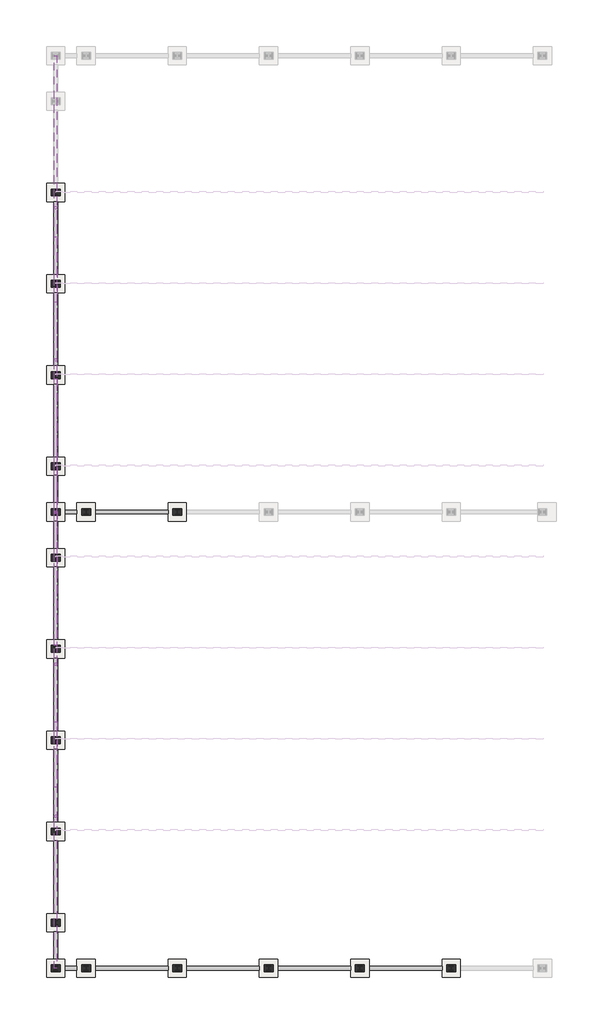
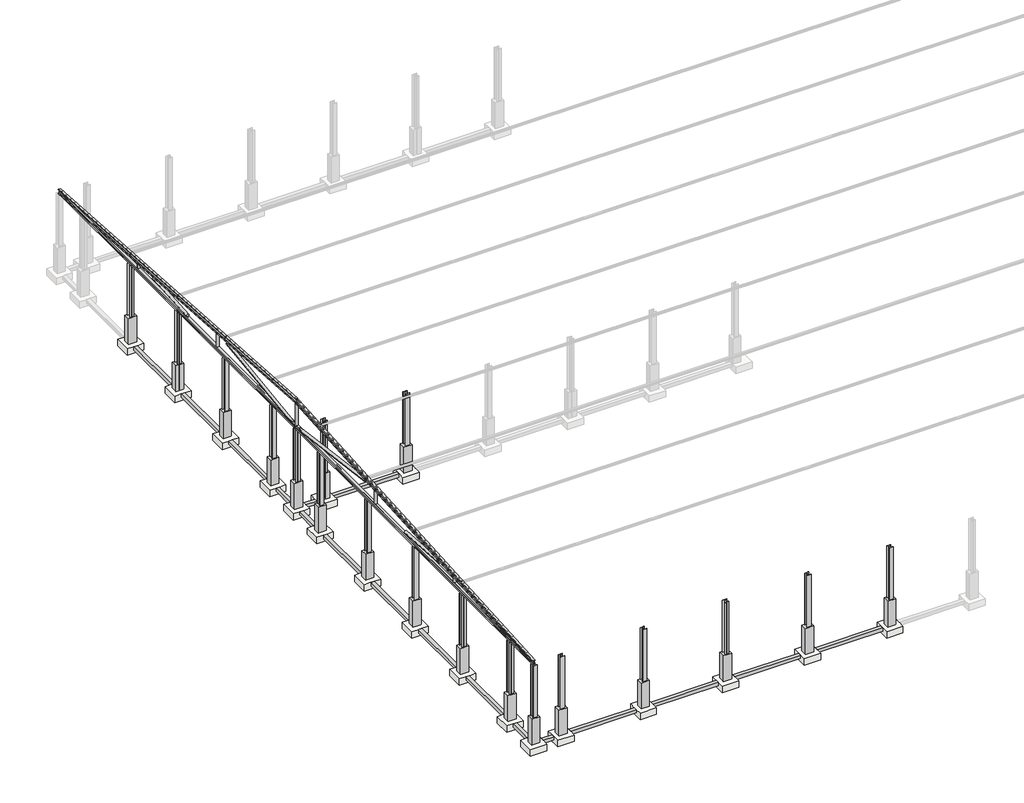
# One storey, part 1 of 4: 36 columns, 29 beams, 18 slabs.
"""IFC4 building model written with IfcOpenShell, lengths in millimetres."""

from ifc_helpers import new_model, si_unit, frame, origin, place, context, project, spatial, polyline, outline, extrude, faceted_brep, transform, mapped, element, save
from components import round_bar_ef4423fe, round_bar_4b02da19, round_bar_197e2d5d, round_bar_92be63b7, round_bar_eebc96e0, round_bar_8cfec21f, round_bar_b8de9798, ub_universal_beams_ub305x165x40_7b27b8ec, ub_universal_beams_ub305x165x40_b91aa233, ub_universal_beams_ub305x165x40_f28fc4b8, columns_rectangular_450x600mm_2512dfd8, uc_universal_columns_column_uc305x305x97_76abc542

model = new_model("IFC4")

# Units and contexts
model_context = context("Model", 3, world=origin())
ifc_project = project(units=[si_unit("LENGTHUNIT", "METRE", prefix="MILLI")], contexts=[model_context])

# Site, building, storey
site = spatial("IfcSite", under=ifc_project)
building = spatial("IfcBuilding", under=site)
storey = spatial("IfcBuildingStorey", under=building, Name="Kota 0", Elevation=0.0)

# Beams
placement = place(None, origin())
element("IfcBeam", 1, ObjectType="Concrete-Rectangular Beam : 16 x 32", at=placement, inside=storey, context=model_context, shape_type="SweptSolid", body=[
    extrude(outline(polyline([(-7536.3249405, -52841.8171651), (-7536.3249405, -53091.8171651), (-8336.3249405, -53091.8171651), (-8336.3249405, -52841.8171651), (-7536.3249405, -52841.8171651)])), frame((0.0, 0.0, -250.0), z_axis=(0.0, 0.0, 1.0), x_axis=(1.0, 0.0, 0.0)), (0.0, 0.0, 1.0), 250.0),
])
element("IfcBeam", 2, ObjectType="Concrete-Rectangular Beam : 16 x 32", at=placement, inside=storey, context=model_context, shape_type="SweptSolid", body=[
    extrude(outline(polyline([(-1536.3249405, -52841.8171651), (-1536.3249405, -53091.8171651), (-6336.3249405, -53091.8171651), (-6336.3249405, -52841.8171651), (-1536.3249405, -52841.8171651)])), frame((0.0, 0.0, -250.0), z_axis=(0.0, 0.0, 1.0), x_axis=(1.0, 0.0, 0.0)), (0.0, 0.0, 1.0), 250.0),
])
element("IfcBeam", 3, ObjectType="Concrete-Rectangular Beam : 16 x 32", at=placement, inside=storey, context=model_context, shape_type="SweptSolid", body=[
    extrude(outline(polyline([(4463.6750595, -52841.8171651), (4463.6750595, -53091.8171651), (-336.3249405, -53091.8171651), (-336.3249405, -52841.8171651), (4463.6750595, -52841.8171651)])), frame((0.0, 0.0, -250.0), z_axis=(0.0, 0.0, 1.0), x_axis=(1.0, 0.0, 0.0)), (0.0, 0.0, 1.0), 250.0),
])
element("IfcBeam", 4, ObjectType="Concrete-Rectangular Beam : 16 x 32", at=placement, inside=storey, context=model_context, shape_type="SweptSolid", body=[
    extrude(outline(polyline([(10463.6750595, -52841.8171651), (10463.6750595, -53091.8171651), (5663.6750595, -53091.8171651), (5663.6750595, -52841.8171651), (10463.6750595, -52841.8171651)])), frame((0.0, 0.0, -250.0), z_axis=(0.0, 0.0, 1.0), x_axis=(1.0, 0.0, 0.0)), (0.0, 0.0, 1.0), 250.0),
])
element("IfcBeam", 5, ObjectType="Concrete-Rectangular Beam : 16 x 32", at=placement, inside=storey, context=model_context, shape_type="SweptSolid", body=[
    extrude(outline(polyline([(16463.6750595, -52841.8171651), (16463.6750595, -53091.8171651), (11663.6750595, -53091.8171651), (11663.6750595, -52841.8171651), (16463.6750595, -52841.8171651)])), frame((0.0, 0.0, -250.0), z_axis=(0.0, 0.0, 1.0), x_axis=(1.0, 0.0, 0.0)), (0.0, 0.0, 1.0), 250.0),
])
element("IfcBeam", 6, ObjectType="Concrete-Rectangular Beam : 16 x 32", at=placement, inside=storey, context=model_context, shape_type="SweptSolid", body=[
    extrude(outline(polyline([(-8811.3249405, -7366.8171651), (-9061.3249405, -7366.8171651), (-9061.3249405, -2566.8171651), (-8811.3249405, -2566.8171651), (-8811.3249405, -7366.8171651)])), frame((0.0, 0.0, -250.0), z_axis=(0.0, 0.0, 1.0), x_axis=(1.0, 0.0, 0.0)), (0.0, 0.0, 1.0), 250.0),
])
element("IfcBeam", 7, ObjectType="Concrete-Rectangular Beam : 16 x 32", at=placement, inside=storey, context=model_context, shape_type="SweptSolid", body=[
    extrude(outline(polyline([(-8811.3249405, -13366.8171651), (-9061.3249405, -13366.8171651), (-9061.3249405, -8566.8171651), (-8811.3249405, -8566.8171651), (-8811.3249405, -13366.8171651)])), frame((0.0, 0.0, -250.0), z_axis=(0.0, 0.0, 1.0), x_axis=(1.0, 0.0, 0.0)), (0.0, 0.0, 1.0), 250.0),
])
element("IfcBeam", 8, ObjectType="Concrete-Rectangular Beam : 16 x 32", at=placement, inside=storey, context=model_context, shape_type="SweptSolid", body=[
    extrude(outline(polyline([(-8811.3249405, -19366.8171651), (-9061.3249405, -19366.8171651), (-9061.3249405, -14566.8171651), (-8811.3249405, -14566.8171651), (-8811.3249405, -19366.8171651)])), frame((0.0, 0.0, -250.0), z_axis=(0.0, 0.0, 1.0), x_axis=(1.0, 0.0, 0.0)), (0.0, 0.0, 1.0), 250.0),
])
element("IfcBeam", 9, ObjectType="Concrete-Rectangular Beam : 16 x 32", at=placement, inside=storey, context=model_context, shape_type="SweptSolid", body=[
    extrude(outline(polyline([(-8811.3249405, -22366.8171651), (-9061.3249405, -22366.8171651), (-9061.3249405, -20566.8171651), (-8811.3249405, -20566.8171651), (-8811.3249405, -22366.8171651)])), frame((0.0, 0.0, -250.0), z_axis=(0.0, 0.0, 1.0), x_axis=(1.0, 0.0, 0.0)), (0.0, 0.0, 1.0), 250.0),
])
element("IfcBeam", 10, ObjectType="Concrete-Rectangular Beam : 16 x 32", at=placement, inside=storey, context=model_context, shape_type="SweptSolid", body=[
    extrude(outline(polyline([(-8811.3249405, -25366.8171651), (-9061.3249405, -25366.8171651), (-9061.3249405, -23566.8171651), (-8811.3249405, -23566.8171651), (-8811.3249405, -25366.8171651)])), frame((0.0, 0.0, -250.0), z_axis=(0.0, 0.0, 1.0), x_axis=(1.0, 0.0, 0.0)), (0.0, 0.0, 1.0), 250.0),
])
element("IfcBeam", 11, ObjectType="Concrete-Rectangular Beam : 16 x 32", at=placement, inside=storey, context=model_context, shape_type="SweptSolid", body=[
    extrude(outline(polyline([(-8811.3249405, -31366.8171651), (-9061.3249405, -31366.8171651), (-9061.3249405, -26566.8171651), (-8811.3249405, -26566.8171651), (-8811.3249405, -31366.8171651)])), frame((0.0, 0.0, -250.0), z_axis=(0.0, 0.0, 1.0), x_axis=(1.0, 0.0, 0.0)), (0.0, 0.0, 1.0), 250.0),
])
element("IfcBeam", 12, ObjectType="Concrete-Rectangular Beam : 16 x 32", at=placement, inside=storey, context=model_context, shape_type="SweptSolid", body=[
    extrude(outline(polyline([(-8811.3249405, -37366.8171651), (-9061.3249405, -37366.8171651), (-9061.3249405, -32566.8171651), (-8811.3249405, -32566.8171651), (-8811.3249405, -37366.8171651)])), frame((0.0, 0.0, -250.0), z_axis=(0.0, 0.0, 1.0), x_axis=(1.0, 0.0, 0.0)), (0.0, 0.0, 1.0), 250.0),
])
element("IfcBeam", 13, ObjectType="Concrete-Rectangular Beam : 16 x 32", at=placement, inside=storey, context=model_context, shape_type="SweptSolid", body=[
    extrude(outline(polyline([(-8811.3249405, -43366.8171651), (-9061.3249405, -43366.8171651), (-9061.3249405, -38566.8171651), (-8811.3249405, -38566.8171651), (-8811.3249405, -43366.8171651)])), frame((0.0, 0.0, -250.0), z_axis=(0.0, 0.0, 1.0), x_axis=(1.0, 0.0, 0.0)), (0.0, 0.0, 1.0), 250.0),
])
element("IfcBeam", 14, ObjectType="Concrete-Rectangular Beam : 16 x 32", at=placement, inside=storey, context=model_context, shape_type="SweptSolid", body=[
    extrude(outline(polyline([(-8811.3249405, -49366.8171651), (-9061.3249405, -49366.8171651), (-9061.3249405, -44566.8171651), (-8811.3249405, -44566.8171651), (-8811.3249405, -49366.8171651)])), frame((0.0, 0.0, -250.0), z_axis=(0.0, 0.0, 1.0), x_axis=(1.0, 0.0, 0.0)), (0.0, 0.0, 1.0), 250.0),
])
element("IfcBeam", 15, ObjectType="Concrete-Rectangular Beam : 16 x 32", at=placement, inside=storey, context=model_context, shape_type="SweptSolid", body=[
    extrude(outline(polyline([(-8811.3249405, -52366.8171651), (-9061.3249405, -52366.8171651), (-9061.3249405, -50566.8171651), (-8811.3249405, -50566.8171651), (-8811.3249405, -52366.8171651)])), frame((0.0, 0.0, -250.0), z_axis=(0.0, 0.0, 1.0), x_axis=(1.0, 0.0, 0.0)), (0.0, 0.0, 1.0), 250.0),
])
element("IfcBeam", 16, ObjectType="Concrete-Rectangular Beam : 16 x 32", at=placement, inside=storey, context=model_context, shape_type="SweptSolid", body=[
    extrude(outline(polyline([(-8336.3249405, -23091.8171651), (-8336.3249405, -22841.8171651), (-7536.3249405, -22841.8171651), (-7536.3249405, -23091.8171651), (-8336.3249405, -23091.8171651)])), frame((0.0, 0.0, -250.0), z_axis=(0.0, 0.0, 1.0), x_axis=(1.0, 0.0, 0.0)), (0.0, 0.0, 1.0), 250.0),
])
element("IfcBeam", 17, ObjectType="Concrete-Rectangular Beam : 16 x 32", at=placement, inside=storey, context=model_context, shape_type="SweptSolid", body=[
    extrude(outline(polyline([(-6336.3249405, -23091.8171651), (-6336.3249405, -22841.8171651), (-1536.3249405, -22841.8171651), (-1536.3249405, -23091.8171651), (-6336.3249405, -23091.8171651)])), frame((0.0, 0.0, -250.0), z_axis=(0.0, 0.0, 1.0), x_axis=(1.0, 0.0, 0.0)), (0.0, 0.0, 1.0), 250.0),
])
round_bar_shape = round_bar_ef4423fe(model_context)
element("IfcBeam", 18, ObjectType="Round Bar : Ispuna resetke", at=placement, inside=storey, context=model_context, shape_type="MappedRepresentation", body=[
    mapped(round_bar_shape, transform((-8936.3249405, -22966.8171651, 7151.7), x_axis=(0.0, 0.0, 1.0), y_axis=(-1.0, 0.0, 0.0), z_axis=(0.0, -1.0, 0.0))),
])
round_bar_2_shape = round_bar_4b02da19(model_context)
element("IfcBeam", 19, ObjectType="Round Bar : Ispuna resetke", at=placement, inside=storey, context=model_context, shape_type="MappedRepresentation", body=[
    mapped(round_bar_2_shape, transform((-8936.3249405, -12966.8171651, 6818.3666667), x_axis=(0.0, 0.0, 1.0), y_axis=(-1.0, 0.0, 0.0), z_axis=(0.0, -1.0, 0.0))),
])
element("IfcBeam", 20, ObjectType="Round Bar : Ispuna resetke", at=placement, inside=storey, context=model_context, shape_type="MappedRepresentation", body=[
    mapped(round_bar_2_shape, transform((-8936.3249405, -32966.8171651, 6818.3666667), x_axis=(0.0, 0.0, 1.0), y_axis=(-1.0, 0.0, 0.0), z_axis=(0.0, -1.0, 0.0))),
])
round_bar_3_shape = round_bar_197e2d5d(model_context)
element("IfcBeam", 21, ObjectType="Round Bar : Ispuna resetke", at=placement, inside=storey, context=model_context, shape_type="MappedRepresentation", body=[
    mapped(round_bar_3_shape, transform((-8936.3249405, -2966.8171651, 6485.0333333), x_axis=(0.0, 0.0, 1.0), y_axis=(-1.0, 0.0, 0.0), z_axis=(0.0, -1.0, 0.0))),
])
element("IfcBeam", 22, ObjectType="Round Bar : Ispuna resetke", at=placement, inside=storey, context=model_context, shape_type="MappedRepresentation", body=[
    mapped(round_bar_3_shape, transform((-8936.3249405, -42966.8171651, 6485.0333333), x_axis=(0.0, 0.0, 1.0), y_axis=(-1.0, 0.0, 0.0), z_axis=(0.0, -1.0, 0.0))),
])
round_bar_4_shape = round_bar_92be63b7(model_context)
element("IfcBeam", 23, ObjectType="Round Bar : Ispuna resetke", at=placement, inside=storey, context=model_context, shape_type="MappedRepresentation", body=[
    mapped(round_bar_4_shape, transform((-8936.3249405, -17966.8171651, 6818.3666667), x_axis=(0.0, -0.9912279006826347, -0.13216372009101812), y_axis=(-1.0, 0.0, 0.0), z_axis=(0.0, 0.13216372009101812, -0.9912279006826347))),
])
round_bar_5_shape = round_bar_eebc96e0(model_context)
element("IfcBeam", 24, ObjectType="Round Bar : Ispuna resetke", at=placement, inside=storey, context=model_context, shape_type="MappedRepresentation", body=[
    mapped(round_bar_5_shape, transform((-8936.3249405, -7966.8171651, 6485.0333333), x_axis=(0.0, -0.9977851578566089, -0.06651901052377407), y_axis=(-1.0, 0.0, 0.0), z_axis=(0.0, 0.06651901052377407, -0.9977851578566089))),
])
round_bar_6_shape = round_bar_8cfec21f(model_context)
element("IfcBeam", 25, ObjectType="Round Bar : Ispuna resetke", at=placement, inside=storey, context=model_context, shape_type="MappedRepresentation", body=[
    mapped(round_bar_6_shape, transform((-8936.3249405, -27966.8171651, 6818.3666667), x_axis=(0.0, -0.9912279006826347, 0.13216372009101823), y_axis=(-1.0, 0.0, 0.0), z_axis=(0.0, -0.13216372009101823, -0.9912279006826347))),
])
round_bar_7_shape = round_bar_b8de9798(model_context)
element("IfcBeam", 26, ObjectType="Round Bar : Ispuna resetke", at=placement, inside=storey, context=model_context, shape_type="MappedRepresentation", body=[
    mapped(round_bar_7_shape, transform((-8936.3249405, -37966.8171651, 6485.0333333), x_axis=(0.0, -0.9977851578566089, 0.0665190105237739), y_axis=(-1.0, 0.0, 0.0), z_axis=(0.0, -0.0665190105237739, -0.9977851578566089))),
])
ub_universal_beams_ub305x165x40_shape = ub_universal_beams_ub305x165x40_7b27b8ec(model_context)
element("IfcBeam", 27, ObjectType="UB-Universal Beams : UB305x165x40", at=placement, inside=storey, context=model_context, shape_type="MappedRepresentation", body=[
    mapped(ub_universal_beams_ub305x165x40_shape, transform((-8936.3249405, -22966.8171651, 6151.7), x_axis=(0.0, -1.0, 0.0), y_axis=(1.0, 0.0, 0.0), z_axis=(0.0, 0.0, 1.0))),
])
ub_universal_beams_ub305x165x40_2_shape = ub_universal_beams_ub305x165x40_b91aa233(model_context)
element("IfcBeam", 28, ObjectType="UB-Universal Beams : UB305x165x40", at=placement, inside=storey, context=model_context, shape_type="MappedRepresentation", body=[
    mapped(ub_universal_beams_ub305x165x40_2_shape, transform((-8936.3249405, -7966.8171651, 7151.7), x_axis=(0.0, -0.9977851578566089, 0.06651901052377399), y_axis=(1.0, 0.0, 0.0), z_axis=(0.0, 0.06651901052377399, 0.9977851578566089))),
])
ub_universal_beams_ub305x165x40_3_shape = ub_universal_beams_ub305x165x40_f28fc4b8(model_context)
element("IfcBeam", 29, ObjectType="UB-Universal Beams : UB305x165x40", at=placement, inside=storey, context=model_context, shape_type="MappedRepresentation", body=[
    mapped(ub_universal_beams_ub305x165x40_3_shape, transform((-8936.3249405, -37966.8171651, 7151.7), x_axis=(0.0, -0.9977851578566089, -0.06651901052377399), y_axis=(1.0, 0.0, 0.0), z_axis=(0.0, -0.06651901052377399, 0.9977851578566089))),
])

# Columns
columns_rectangular_450x600mm_shape = columns_rectangular_450x600mm_2512dfd8(model_context)
element("IfcColumn", 30, ObjectType="Columns_Rectangular : 450x600mm", at=placement, inside=storey, context=model_context, shape_type="MappedRepresentation", body=[
    mapped(columns_rectangular_450x600mm_shape, transform((17063.6750595, -52966.8171651, 0.0), x_axis=(1.0, 0.0, 0.0), y_axis=(0.0, 1.0, 0.0), z_axis=(0.0, 0.0, 1.0))),
])
element("IfcColumn", 31, ObjectType="Columns_Rectangular : 450x600mm", at=placement, inside=storey, context=model_context, shape_type="MappedRepresentation", body=[
    mapped(columns_rectangular_450x600mm_shape, transform((11063.6750595, -52966.8171651, 0.0), x_axis=(1.0, 0.0, 0.0), y_axis=(0.0, 1.0, 0.0), z_axis=(0.0, 0.0, 1.0))),
])
element("IfcColumn", 32, ObjectType="Columns_Rectangular : 450x600mm", at=placement, inside=storey, context=model_context, shape_type="MappedRepresentation", body=[
    mapped(columns_rectangular_450x600mm_shape, transform((5063.6750595, -52966.8171651, 0.0), x_axis=(1.0, 0.0, 0.0), y_axis=(0.0, 1.0, 0.0), z_axis=(0.0, 0.0, 1.0))),
])
element("IfcColumn", 33, ObjectType="Columns_Rectangular : 450x600mm", at=placement, inside=storey, context=model_context, shape_type="MappedRepresentation", body=[
    mapped(columns_rectangular_450x600mm_shape, transform((-936.3249405, -52966.8171651, 0.0), x_axis=(1.0, 0.0, 0.0), y_axis=(0.0, 1.0, 0.0), z_axis=(0.0, 0.0, 1.0))),
])
element("IfcColumn", 34, ObjectType="Columns_Rectangular : 450x600mm", at=placement, inside=storey, context=model_context, shape_type="MappedRepresentation", body=[
    mapped(columns_rectangular_450x600mm_shape, transform((-6936.3249405, -52966.8171651, 0.0), x_axis=(1.0, 0.0, 0.0), y_axis=(0.0, 1.0, 0.0), z_axis=(0.0, 0.0, 1.0))),
])
element("IfcColumn", 35, ObjectType="Columns_Rectangular : 450x600mm", at=placement, inside=storey, context=model_context, shape_type="MappedRepresentation", body=[
    mapped(columns_rectangular_450x600mm_shape, transform((-8936.3249405, -52966.8171651, 0.0), x_axis=(1.0, 0.0, 0.0), y_axis=(0.0, 1.0, 0.0), z_axis=(0.0, 0.0, 1.0))),
])
element("IfcColumn", 36, ObjectType="Columns_Rectangular : 450x600mm", at=placement, inside=storey, context=model_context, shape_type="MappedRepresentation", body=[
    mapped(columns_rectangular_450x600mm_shape, transform((-8936.3249405, -49966.8171651, 0.0), x_axis=(1.0, 0.0, 0.0), y_axis=(0.0, 1.0, 0.0), z_axis=(0.0, 0.0, 1.0))),
])
element("IfcColumn", 37, ObjectType="Columns_Rectangular : 450x600mm", at=placement, inside=storey, context=model_context, shape_type="MappedRepresentation", body=[
    mapped(columns_rectangular_450x600mm_shape, transform((-8936.3249405, -43966.8171651, 0.0), x_axis=(1.0, 0.0, 0.0), y_axis=(0.0, 1.0, 0.0), z_axis=(0.0, 0.0, 1.0))),
])
element("IfcColumn", 38, ObjectType="Columns_Rectangular : 450x600mm", at=placement, inside=storey, context=model_context, shape_type="MappedRepresentation", body=[
    mapped(columns_rectangular_450x600mm_shape, transform((-8936.3249405, -37966.8171651, 0.0), x_axis=(1.0, 0.0, 0.0), y_axis=(0.0, 1.0, 0.0), z_axis=(0.0, 0.0, 1.0))),
])
element("IfcColumn", 39, ObjectType="Columns_Rectangular : 450x600mm", at=placement, inside=storey, context=model_context, shape_type="MappedRepresentation", body=[
    mapped(columns_rectangular_450x600mm_shape, transform((-8936.3249405, -31966.8171651, 0.0), x_axis=(1.0, 0.0, 0.0), y_axis=(0.0, 1.0, 0.0), z_axis=(0.0, 0.0, 1.0))),
])
element("IfcColumn", 40, ObjectType="Columns_Rectangular : 450x600mm", at=placement, inside=storey, context=model_context, shape_type="MappedRepresentation", body=[
    mapped(columns_rectangular_450x600mm_shape, transform((-8936.3249405, -25966.8171651, 0.0), x_axis=(1.0, 0.0, 0.0), y_axis=(0.0, 1.0, 0.0), z_axis=(0.0, 0.0, 1.0))),
])
element("IfcColumn", 41, ObjectType="Columns_Rectangular : 450x600mm", at=placement, inside=storey, context=model_context, shape_type="MappedRepresentation", body=[
    mapped(columns_rectangular_450x600mm_shape, transform((-8936.3249405, -19966.8171651, 0.0), x_axis=(1.0, 0.0, 0.0), y_axis=(0.0, 1.0, 0.0), z_axis=(0.0, 0.0, 1.0))),
])
element("IfcColumn", 42, ObjectType="Columns_Rectangular : 450x600mm", at=placement, inside=storey, context=model_context, shape_type="MappedRepresentation", body=[
    mapped(columns_rectangular_450x600mm_shape, transform((-8936.3249405, -22966.8171651, 0.0), x_axis=(1.0, 0.0, 0.0), y_axis=(0.0, 1.0, 0.0), z_axis=(0.0, 0.0, 1.0))),
])
element("IfcColumn", 43, ObjectType="Columns_Rectangular : 450x600mm", at=placement, inside=storey, context=model_context, shape_type="MappedRepresentation", body=[
    mapped(columns_rectangular_450x600mm_shape, transform((-8936.3249405, -13966.8171651, 0.0), x_axis=(1.0, 0.0, 0.0), y_axis=(0.0, 1.0, 0.0), z_axis=(0.0, 0.0, 1.0))),
])
element("IfcColumn", 44, ObjectType="Columns_Rectangular : 450x600mm", at=placement, inside=storey, context=model_context, shape_type="MappedRepresentation", body=[
    mapped(columns_rectangular_450x600mm_shape, transform((-8936.3249405, -7966.8171651, 0.0), x_axis=(1.0, 0.0, 0.0), y_axis=(0.0, 1.0, 0.0), z_axis=(0.0, 0.0, 1.0))),
])
element("IfcColumn", 45, ObjectType="Columns_Rectangular : 450x600mm", at=placement, inside=storey, context=model_context, shape_type="MappedRepresentation", body=[
    mapped(columns_rectangular_450x600mm_shape, transform((-8936.3249405, -1966.8171651, 0.0), x_axis=(1.0, 0.0, 0.0), y_axis=(0.0, 1.0, 0.0), z_axis=(0.0, 0.0, 1.0))),
])
element("IfcColumn", 46, ObjectType="Columns_Rectangular : 450x600mm", at=placement, inside=storey, context=model_context, shape_type="MappedRepresentation", body=[
    mapped(columns_rectangular_450x600mm_shape, transform((-6936.3249405, -22966.8171651, 0.0), x_axis=(1.0, 0.0, 0.0), y_axis=(0.0, 1.0, 0.0), z_axis=(0.0, 0.0, 1.0))),
])
element("IfcColumn", 47, ObjectType="Columns_Rectangular : 450x600mm", at=placement, inside=storey, context=model_context, shape_type="MappedRepresentation", body=[
    mapped(columns_rectangular_450x600mm_shape, transform((-936.3249405, -22966.8171651, 0.0), x_axis=(1.0, 0.0, 0.0), y_axis=(0.0, 1.0, 0.0), z_axis=(0.0, 0.0, 1.0))),
])
uc_universal_columns_column_uc305x305x97_shape = uc_universal_columns_column_uc305x305x97_76abc542(model_context)
element("IfcColumn", 48, ObjectType="UC-Universal Columns-Column : UC305x305x97", at=placement, inside=storey, context=model_context, shape_type="MappedRepresentation", body=[
    mapped(uc_universal_columns_column_uc305x305x97_shape, transform((-6936.3249405, -52966.8171651, 0.0), x_axis=(1.0, 0.0, 0.0), y_axis=(0.0, 1.0, 0.0), z_axis=(0.0, 0.0, 1.0))),
])
element("IfcColumn", 49, ObjectType="UC-Universal Columns-Column : UC305x305x97", at=placement, inside=storey, context=model_context, shape_type="MappedRepresentation", body=[
    mapped(uc_universal_columns_column_uc305x305x97_shape, transform((-936.3249405, -52966.8171651, 0.0), x_axis=(1.0, 0.0, 0.0), y_axis=(0.0, 1.0, 0.0), z_axis=(0.0, 0.0, 1.0))),
])
element("IfcColumn", 50, ObjectType="UC-Universal Columns-Column : UC305x305x97", at=placement, inside=storey, context=model_context, shape_type="MappedRepresentation", body=[
    mapped(uc_universal_columns_column_uc305x305x97_shape, transform((5063.6750595, -52966.8171651, 0.0), x_axis=(1.0, 0.0, 0.0), y_axis=(0.0, 1.0, 0.0), z_axis=(0.0, 0.0, 1.0))),
])
element("IfcColumn", 51, ObjectType="UC-Universal Columns-Column : UC305x305x97", at=placement, inside=storey, context=model_context, shape_type="MappedRepresentation", body=[
    mapped(uc_universal_columns_column_uc305x305x97_shape, transform((11063.6750595, -52966.8171651, 0.0), x_axis=(1.0, 0.0, 0.0), y_axis=(0.0, 1.0, 0.0), z_axis=(0.0, 0.0, 1.0))),
])
element("IfcColumn", 52, ObjectType="UC-Universal Columns-Column : UC305x305x97", at=placement, inside=storey, context=model_context, shape_type="MappedRepresentation", body=[
    mapped(uc_universal_columns_column_uc305x305x97_shape, transform((17063.6750595, -52966.8171651, 0.0), x_axis=(1.0, 0.0, 0.0), y_axis=(0.0, 1.0, 0.0), z_axis=(0.0, 0.0, 1.0))),
])
element("IfcColumn", 53, ObjectType="UC-Universal Columns-Column : UC305x305x97", at=placement, inside=storey, context=model_context, shape_type="MappedRepresentation", body=[
    mapped(uc_universal_columns_column_uc305x305x97_shape, transform((-8936.3249405, -52966.8171651, 0.0), x_axis=(1.0, 0.0, 0.0), y_axis=(0.0, 1.0, 0.0), z_axis=(0.0, 0.0, 1.0))),
])
element("IfcColumn", 54, ObjectType="UC-Universal Columns-Column : UC305x305x97", at=placement, inside=storey, context=model_context, shape_type="MappedRepresentation", body=[
    mapped(uc_universal_columns_column_uc305x305x97_shape, transform((-8936.3249405, -1966.8171651, 0.0), x_axis=(1.0, 0.0, 0.0), y_axis=(0.0, 1.0, 0.0), z_axis=(0.0, 0.0, 1.0))),
])
element("IfcColumn", 55, ObjectType="UC-Universal Columns-Column : UC305x305x97", at=placement, inside=storey, context=model_context, shape_type="MappedRepresentation", body=[
    mapped(uc_universal_columns_column_uc305x305x97_shape, transform((-8936.3249405, -7966.8171651, 0.0), x_axis=(1.0, 0.0, 0.0), y_axis=(0.0, 1.0, 0.0), z_axis=(0.0, 0.0, 1.0))),
])
element("IfcColumn", 56, ObjectType="UC-Universal Columns-Column : UC305x305x97", at=placement, inside=storey, context=model_context, shape_type="MappedRepresentation", body=[
    mapped(uc_universal_columns_column_uc305x305x97_shape, transform((-8936.3249405, -13966.8171651, 0.0), x_axis=(1.0, 0.0, 0.0), y_axis=(0.0, 1.0, 0.0), z_axis=(0.0, 0.0, 1.0))),
])
element("IfcColumn", 57, ObjectType="UC-Universal Columns-Column : UC305x305x97", at=placement, inside=storey, context=model_context, shape_type="MappedRepresentation", body=[
    mapped(uc_universal_columns_column_uc305x305x97_shape, transform((-8936.3249405, -19966.8171651, 0.0), x_axis=(1.0, 0.0, 0.0), y_axis=(0.0, 1.0, 0.0), z_axis=(0.0, 0.0, 1.0))),
])
element("IfcColumn", 58, ObjectType="UC-Universal Columns-Column : UC305x305x97", at=placement, inside=storey, context=model_context, shape_type="MappedRepresentation", body=[
    mapped(uc_universal_columns_column_uc305x305x97_shape, transform((-8936.3249405, -25966.8171651, 0.0), x_axis=(1.0, 0.0, 0.0), y_axis=(0.0, 1.0, 0.0), z_axis=(0.0, 0.0, 1.0))),
])
element("IfcColumn", 59, ObjectType="UC-Universal Columns-Column : UC305x305x97", at=placement, inside=storey, context=model_context, shape_type="MappedRepresentation", body=[
    mapped(uc_universal_columns_column_uc305x305x97_shape, transform((-8936.3249405, -31966.8171651, 0.0), x_axis=(1.0, 0.0, 0.0), y_axis=(0.0, 1.0, 0.0), z_axis=(0.0, 0.0, 1.0))),
])
element("IfcColumn", 60, ObjectType="UC-Universal Columns-Column : UC305x305x97", at=placement, inside=storey, context=model_context, shape_type="MappedRepresentation", body=[
    mapped(uc_universal_columns_column_uc305x305x97_shape, transform((-8936.3249405, -37966.8171651, 0.0), x_axis=(1.0, 0.0, 0.0), y_axis=(0.0, 1.0, 0.0), z_axis=(0.0, 0.0, 1.0))),
])
element("IfcColumn", 61, ObjectType="UC-Universal Columns-Column : UC305x305x97", at=placement, inside=storey, context=model_context, shape_type="MappedRepresentation", body=[
    mapped(uc_universal_columns_column_uc305x305x97_shape, transform((-8936.3249405, -43966.8171651, 0.0), x_axis=(1.0, 0.0, 0.0), y_axis=(0.0, 1.0, 0.0), z_axis=(0.0, 0.0, 1.0))),
])
element("IfcColumn", 62, ObjectType="UC-Universal Columns-Column : UC305x305x97", at=placement, inside=storey, context=model_context, shape_type="MappedRepresentation", body=[
    mapped(uc_universal_columns_column_uc305x305x97_shape, transform((-8936.3249405, -49966.8171651, 0.0), x_axis=(1.0, 0.0, 0.0), y_axis=(0.0, 1.0, 0.0), z_axis=(0.0, 0.0, 1.0))),
])
element("IfcColumn", 63, ObjectType="UC-Universal Columns-Column : UC305x305x97", at=placement, inside=storey, context=model_context, shape_type="MappedRepresentation", body=[
    mapped(uc_universal_columns_column_uc305x305x97_shape, transform((-6936.3249405, -22966.8171651, 0.0), x_axis=(-1.0, 0.0, 0.0), y_axis=(0.0, -1.0, 0.0), z_axis=(0.0, 0.0, 1.0))),
])
element("IfcColumn", 64, ObjectType="UC-Universal Columns-Column : UC305x305x97", at=placement, inside=storey, context=model_context, shape_type="MappedRepresentation", body=[
    mapped(uc_universal_columns_column_uc305x305x97_shape, transform((-936.3249405, -22966.8171651, 0.0), x_axis=(-1.0, 0.0, 0.0), y_axis=(0.0, -1.0, 0.0), z_axis=(0.0, 0.0, 1.0))),
])
element("IfcColumn", 65, ObjectType="UC-Universal Columns-Column : UC305x305x97", at=placement, inside=storey, context=model_context, shape_type="MappedRepresentation", body=[
    mapped(uc_universal_columns_column_uc305x305x97_shape, transform((-8936.3249405, -22966.8171651, 0.0), x_axis=(-1.0, 0.0, 0.0), y_axis=(0.0, -1.0, 0.0), z_axis=(0.0, 0.0, 1.0))),
])

# Slabs
element("IfcSlab", 66, ObjectType="Footing-Rectangular.0001 : 72\" x 48\" x 18\"", at=placement, inside=storey, context=model_context, shape_type="Brep", body=[
    faceted_brep([(17663.6750595, -52366.8171651, 0.0), (16463.6750595, -52366.8171651, 0.0), (16463.6750595, -52841.8171651, 0.0), (16463.6750595, -53091.8171651, 0.0), (16463.6750595, -53566.8171651, 0.0), (17663.6750595, -53566.8171651, 0.0), (17663.6750595, -53091.8171651, 0.0), (17663.6750595, -52841.8171651, 0.0), (17663.6750595, -52366.8171651, -500.0), (17663.6750595, -53566.8171651, -500.0), (16463.6750595, -53566.8171651, -500.0), (16463.6750595, -52366.8171651, -500.0)], [[[0, 1, 2, 3, 4, 5, 6, 7]], [[8, 9, 10, 11]], [[1, 0, 8, 11]], [[4, 3, 2, 1, 11, 10]], [[5, 4, 10, 9]], [[0, 7, 6, 5, 9, 8]]]),
])
element("IfcSlab", 67, ObjectType="Footing-Rectangular.0001 : 72\" x 48\" x 18\"", at=placement, inside=storey, context=model_context, shape_type="Brep", body=[
    faceted_brep([(11663.6750595, -52366.8171651, 0.0), (10463.6750595, -52366.8171651, 0.0), (10463.6750595, -52841.8171651, 0.0), (10463.6750595, -53091.8171651, 0.0), (10463.6750595, -53566.8171651, 0.0), (11663.6750595, -53566.8171651, 0.0), (11663.6750595, -53091.8171651, 0.0), (11663.6750595, -52841.8171651, 0.0), (11663.6750595, -52366.8171651, -500.0), (11663.6750595, -53566.8171651, -500.0), (10463.6750595, -53566.8171651, -500.0), (10463.6750595, -52366.8171651, -500.0)], [[[0, 1, 2, 3, 4, 5, 6, 7]], [[8, 9, 10, 11]], [[1, 0, 8, 11]], [[4, 3, 2, 1, 11, 10]], [[5, 4, 10, 9]], [[0, 7, 6, 5, 9, 8]]]),
])
element("IfcSlab", 68, ObjectType="Footing-Rectangular.0001 : 72\" x 48\" x 18\"", at=placement, inside=storey, context=model_context, shape_type="Brep", body=[
    faceted_brep([(5663.6750595, -52366.8171651, 0.0), (4463.6750595, -52366.8171651, 0.0), (4463.6750595, -52841.8171651, 0.0), (4463.6750595, -53091.8171651, 0.0), (4463.6750595, -53566.8171651, 0.0), (5663.6750595, -53566.8171651, 0.0), (5663.6750595, -53091.8171651, 0.0), (5663.6750595, -52841.8171651, 0.0), (5663.6750595, -52366.8171651, -500.0), (5663.6750595, -53566.8171651, -500.0), (4463.6750595, -53566.8171651, -500.0), (4463.6750595, -52366.8171651, -500.0)], [[[0, 1, 2, 3, 4, 5, 6, 7]], [[8, 9, 10, 11]], [[1, 0, 8, 11]], [[4, 3, 2, 1, 11, 10]], [[5, 4, 10, 9]], [[0, 7, 6, 5, 9, 8]]]),
])
element("IfcSlab", 69, ObjectType="Footing-Rectangular.0001 : 72\" x 48\" x 18\"", at=placement, inside=storey, context=model_context, shape_type="Brep", body=[
    faceted_brep([(-336.3249405, -52366.8171651, 0.0), (-1536.3249405, -52366.8171651, 0.0), (-1536.3249405, -52841.8171651, 0.0), (-1536.3249405, -53091.8171651, 0.0), (-1536.3249405, -53566.8171651, 0.0), (-336.3249405, -53566.8171651, 0.0), (-336.3249405, -53091.8171651, 0.0), (-336.3249405, -52841.8171651, 0.0), (-336.3249405, -52366.8171651, -500.0), (-336.3249405, -53566.8171651, -500.0), (-1536.3249405, -53566.8171651, -500.0), (-1536.3249405, -52366.8171651, -500.0)], [[[0, 1, 2, 3, 4, 5, 6, 7]], [[8, 9, 10, 11]], [[1, 0, 8, 11]], [[4, 3, 2, 1, 11, 10]], [[5, 4, 10, 9]], [[0, 7, 6, 5, 9, 8]]]),
])
element("IfcSlab", 70, ObjectType="Footing-Rectangular.0001 : 72\" x 48\" x 18\"", at=placement, inside=storey, context=model_context, shape_type="Brep", body=[
    faceted_brep([(-6336.3249405, -52366.8171651, 0.0), (-7536.3249405, -52366.8171651, 0.0), (-7536.3249405, -52841.8171651, 0.0), (-7536.3249405, -53091.8171651, 0.0), (-7536.3249405, -53566.8171651, 0.0), (-6336.3249405, -53566.8171651, 0.0), (-6336.3249405, -53091.8171651, 0.0), (-6336.3249405, -52841.8171651, 0.0), (-6336.3249405, -52366.8171651, -500.0), (-6336.3249405, -53566.8171651, -500.0), (-7536.3249405, -53566.8171651, -500.0), (-7536.3249405, -52366.8171651, -500.0)], [[[0, 1, 2, 3, 4, 5, 6, 7]], [[8, 9, 10, 11]], [[1, 0, 8, 11]], [[4, 3, 2, 1, 11, 10]], [[5, 4, 10, 9]], [[0, 7, 6, 5, 9, 8]]]),
])
element("IfcSlab", 71, ObjectType="Footing-Rectangular.0001 : 72\" x 48\" x 18\"", at=placement, inside=storey, context=model_context, shape_type="Brep", body=[
    faceted_brep([(-8336.3249405, -52366.8171651, 0.0), (-8811.3249405, -52366.8171651, 0.0), (-9061.3249405, -52366.8171651, 0.0), (-9536.3249405, -52366.8171651, 0.0), (-9536.3249405, -53566.8171651, 0.0), (-8336.3249405, -53566.8171651, 0.0), (-8336.3249405, -53091.8171651, 0.0), (-8336.3249405, -52841.8171651, 0.0), (-8336.3249405, -52366.8171651, -500.0), (-8336.3249405, -53566.8171651, -500.0), (-9536.3249405, -53566.8171651, -500.0), (-9536.3249405, -52366.8171651, -500.0)], [[[0, 1, 2, 3, 4, 5, 6, 7]], [[8, 9, 10, 11]], [[3, 2, 1, 0, 8, 11]], [[4, 3, 11, 10]], [[5, 4, 10, 9]], [[0, 7, 6, 5, 9, 8]]]),
])
element("IfcSlab", 72, ObjectType="Footing-Rectangular.0001 : 72\" x 48\" x 18\"", at=placement, inside=storey, context=model_context, shape_type="Brep", body=[
    faceted_brep([(-8336.3249405, -49366.8171651, 0.0), (-8811.3249405, -49366.8171651, 0.0), (-9061.3249405, -49366.8171651, 0.0), (-9536.3249405, -49366.8171651, 0.0), (-9536.3249405, -50566.8171651, 0.0), (-9061.3249405, -50566.8171651, 0.0), (-8811.3249405, -50566.8171651, 0.0), (-8336.3249405, -50566.8171651, 0.0), (-8336.3249405, -49366.8171651, -500.0), (-8336.3249405, -50566.8171651, -500.0), (-9536.3249405, -50566.8171651, -500.0), (-9536.3249405, -49366.8171651, -500.0)], [[[0, 1, 2, 3, 4, 5, 6, 7]], [[8, 9, 10, 11]], [[3, 2, 1, 0, 8, 11]], [[4, 3, 11, 10]], [[7, 6, 5, 4, 10, 9]], [[0, 7, 9, 8]]]),
])
element("IfcSlab", 73, ObjectType="Footing-Rectangular.0001 : 72\" x 48\" x 18\"", at=placement, inside=storey, context=model_context, shape_type="Brep", body=[
    faceted_brep([(-8336.3249405, -43366.8171651, 0.0), (-8811.3249405, -43366.8171651, 0.0), (-9061.3249405, -43366.8171651, 0.0), (-9536.3249405, -43366.8171651, 0.0), (-9536.3249405, -44566.8171651, 0.0), (-9061.3249405, -44566.8171651, 0.0), (-8811.3249405, -44566.8171651, 0.0), (-8336.3249405, -44566.8171651, 0.0), (-8336.3249405, -43366.8171651, -500.0), (-8336.3249405, -44566.8171651, -500.0), (-9536.3249405, -44566.8171651, -500.0), (-9536.3249405, -43366.8171651, -500.0)], [[[0, 1, 2, 3, 4, 5, 6, 7]], [[8, 9, 10, 11]], [[3, 2, 1, 0, 8, 11]], [[4, 3, 11, 10]], [[7, 6, 5, 4, 10, 9]], [[0, 7, 9, 8]]]),
])
element("IfcSlab", 74, ObjectType="Footing-Rectangular.0001 : 72\" x 48\" x 18\"", at=placement, inside=storey, context=model_context, shape_type="Brep", body=[
    faceted_brep([(-8336.3249405, -37366.8171651, 0.0), (-8811.3249405, -37366.8171651, 0.0), (-9061.3249405, -37366.8171651, 0.0), (-9536.3249405, -37366.8171651, 0.0), (-9536.3249405, -38566.8171651, 0.0), (-9061.3249405, -38566.8171651, 0.0), (-8811.3249405, -38566.8171651, 0.0), (-8336.3249405, -38566.8171651, 0.0), (-8336.3249405, -37366.8171651, -500.0), (-8336.3249405, -38566.8171651, -500.0), (-9536.3249405, -38566.8171651, -500.0), (-9536.3249405, -37366.8171651, -500.0)], [[[0, 1, 2, 3, 4, 5, 6, 7]], [[8, 9, 10, 11]], [[3, 2, 1, 0, 8, 11]], [[4, 3, 11, 10]], [[7, 6, 5, 4, 10, 9]], [[0, 7, 9, 8]]]),
])
element("IfcSlab", 75, ObjectType="Footing-Rectangular.0001 : 72\" x 48\" x 18\"", at=placement, inside=storey, context=model_context, shape_type="Brep", body=[
    faceted_brep([(-8336.3249405, -31366.8171651, 0.0), (-8811.3249405, -31366.8171651, 0.0), (-9061.3249405, -31366.8171651, 0.0), (-9536.3249405, -31366.8171651, 0.0), (-9536.3249405, -32566.8171651, 0.0), (-9061.3249405, -32566.8171651, 0.0), (-8811.3249405, -32566.8171651, 0.0), (-8336.3249405, -32566.8171651, 0.0), (-8336.3249405, -31366.8171651, -500.0), (-8336.3249405, -32566.8171651, -500.0), (-9536.3249405, -32566.8171651, -500.0), (-9536.3249405, -31366.8171651, -500.0)], [[[0, 1, 2, 3, 4, 5, 6, 7]], [[8, 9, 10, 11]], [[3, 2, 1, 0, 8, 11]], [[4, 3, 11, 10]], [[7, 6, 5, 4, 10, 9]], [[0, 7, 9, 8]]]),
])
element("IfcSlab", 76, ObjectType="Footing-Rectangular.0001 : 72\" x 48\" x 18\"", at=placement, inside=storey, context=model_context, shape_type="Brep", body=[
    faceted_brep([(-8336.3249405, -25366.8171651, 0.0), (-8811.3249405, -25366.8171651, 0.0), (-9061.3249405, -25366.8171651, 0.0), (-9536.3249405, -25366.8171651, 0.0), (-9536.3249405, -26566.8171651, 0.0), (-9061.3249405, -26566.8171651, 0.0), (-8811.3249405, -26566.8171651, 0.0), (-8336.3249405, -26566.8171651, 0.0), (-8336.3249405, -25366.8171651, -500.0), (-8336.3249405, -26566.8171651, -500.0), (-9536.3249405, -26566.8171651, -500.0), (-9536.3249405, -25366.8171651, -500.0)], [[[0, 1, 2, 3, 4, 5, 6, 7]], [[8, 9, 10, 11]], [[3, 2, 1, 0, 8, 11]], [[4, 3, 11, 10]], [[7, 6, 5, 4, 10, 9]], [[0, 7, 9, 8]]]),
])
element("IfcSlab", 77, ObjectType="Footing-Rectangular.0001 : 72\" x 48\" x 18\"", at=placement, inside=storey, context=model_context, shape_type="Brep", body=[
    faceted_brep([(-8336.3249405, -22366.8171651, 0.0), (-8811.3249405, -22366.8171651, 0.0), (-9061.3249405, -22366.8171651, 0.0), (-9536.3249405, -22366.8171651, 0.0), (-9536.3249405, -23566.8171651, 0.0), (-9061.3249405, -23566.8171651, 0.0), (-8811.3249405, -23566.8171651, 0.0), (-8336.3249405, -23566.8171651, 0.0), (-8336.3249405, -23091.8171651, 0.0), (-8336.3249405, -22841.8171651, 0.0), (-8336.3249405, -22366.8171651, -500.0), (-8336.3249405, -23566.8171651, -500.0), (-9536.3249405, -23566.8171651, -500.0), (-9536.3249405, -22366.8171651, -500.0)], [[[0, 1, 2, 3, 4, 5, 6, 7, 8, 9]], [[10, 11, 12, 13]], [[3, 2, 1, 0, 10, 13]], [[4, 3, 13, 12]], [[7, 6, 5, 4, 12, 11]], [[0, 9, 8, 7, 11, 10]]]),
])
element("IfcSlab", 78, ObjectType="Footing-Rectangular.0001 : 72\" x 48\" x 18\"", at=placement, inside=storey, context=model_context, shape_type="Brep", body=[
    faceted_brep([(-8336.3249405, -19366.8171651, 0.0), (-8811.3249405, -19366.8171651, 0.0), (-9061.3249405, -19366.8171651, 0.0), (-9536.3249405, -19366.8171651, 0.0), (-9536.3249405, -20566.8171651, 0.0), (-9061.3249405, -20566.8171651, 0.0), (-8811.3249405, -20566.8171651, 0.0), (-8336.3249405, -20566.8171651, 0.0), (-8336.3249405, -19366.8171651, -500.0), (-8336.3249405, -20566.8171651, -500.0), (-9536.3249405, -20566.8171651, -500.0), (-9536.3249405, -19366.8171651, -500.0)], [[[0, 1, 2, 3, 4, 5, 6, 7]], [[8, 9, 10, 11]], [[3, 2, 1, 0, 8, 11]], [[4, 3, 11, 10]], [[7, 6, 5, 4, 10, 9]], [[0, 7, 9, 8]]]),
])
element("IfcSlab", 79, ObjectType="Footing-Rectangular.0001 : 72\" x 48\" x 18\"", at=placement, inside=storey, context=model_context, shape_type="Brep", body=[
    faceted_brep([(-8336.3249405, -13366.8171651, 0.0), (-8811.3249405, -13366.8171651, 0.0), (-9061.3249405, -13366.8171651, 0.0), (-9536.3249405, -13366.8171651, 0.0), (-9536.3249405, -14566.8171651, 0.0), (-9061.3249405, -14566.8171651, 0.0), (-8811.3249405, -14566.8171651, 0.0), (-8336.3249405, -14566.8171651, 0.0), (-8336.3249405, -13366.8171651, -500.0), (-8336.3249405, -14566.8171651, -500.0), (-9536.3249405, -14566.8171651, -500.0), (-9536.3249405, -13366.8171651, -500.0)], [[[0, 1, 2, 3, 4, 5, 6, 7]], [[8, 9, 10, 11]], [[3, 2, 1, 0, 8, 11]], [[4, 3, 11, 10]], [[7, 6, 5, 4, 10, 9]], [[0, 7, 9, 8]]]),
])
element("IfcSlab", 80, ObjectType="Footing-Rectangular.0001 : 72\" x 48\" x 18\"", at=placement, inside=storey, context=model_context, shape_type="Brep", body=[
    faceted_brep([(-8336.3249405, -7366.8171651, 0.0), (-8811.3249405, -7366.8171651, 0.0), (-9061.3249405, -7366.8171651, 0.0), (-9536.3249405, -7366.8171651, 0.0), (-9536.3249405, -8566.8171651, 0.0), (-9061.3249405, -8566.8171651, 0.0), (-8811.3249405, -8566.8171651, 0.0), (-8336.3249405, -8566.8171651, 0.0), (-8336.3249405, -7366.8171651, -500.0), (-8336.3249405, -8566.8171651, -500.0), (-9536.3249405, -8566.8171651, -500.0), (-9536.3249405, -7366.8171651, -500.0)], [[[0, 1, 2, 3, 4, 5, 6, 7]], [[8, 9, 10, 11]], [[3, 2, 1, 0, 8, 11]], [[4, 3, 11, 10]], [[7, 6, 5, 4, 10, 9]], [[0, 7, 9, 8]]]),
])
element("IfcSlab", 81, ObjectType="Footing-Rectangular.0001 : 72\" x 48\" x 18\"", at=placement, inside=storey, context=model_context, shape_type="Brep", body=[
    faceted_brep([(-8336.3249405, -1366.8171651, 0.0), (-8811.3249405, -1366.8171651, 0.0), (-9061.3249405, -1366.8171651, 0.0), (-9536.3249405, -1366.8171651, 0.0), (-9536.3249405, -2566.8171651, 0.0), (-9061.3249405, -2566.8171651, 0.0), (-8811.3249405, -2566.8171651, 0.0), (-8336.3249405, -2566.8171651, 0.0), (-8336.3249405, -1366.8171651, -500.0), (-8336.3249405, -2566.8171651, -500.0), (-9536.3249405, -2566.8171651, -500.0), (-9536.3249405, -1366.8171651, -500.0)], [[[0, 1, 2, 3, 4, 5, 6, 7]], [[8, 9, 10, 11]], [[3, 2, 1, 0, 8, 11]], [[4, 3, 11, 10]], [[7, 6, 5, 4, 10, 9]], [[0, 7, 9, 8]]]),
])
element("IfcSlab", 82, ObjectType="Footing-Rectangular.0001 : 72\" x 48\" x 18\"", at=placement, inside=storey, context=model_context, shape_type="Brep", body=[
    faceted_brep([(-6336.3249405, -22366.8171651, 0.0), (-7536.3249405, -22366.8171651, 0.0), (-7536.3249405, -22841.8171651, 0.0), (-7536.3249405, -23091.8171651, 0.0), (-7536.3249405, -23566.8171651, 0.0), (-6336.3249405, -23566.8171651, 0.0), (-6336.3249405, -23091.8171651, 0.0), (-6336.3249405, -22841.8171651, 0.0), (-6336.3249405, -22366.8171651, -500.0), (-6336.3249405, -23566.8171651, -500.0), (-7536.3249405, -23566.8171651, -500.0), (-7536.3249405, -22366.8171651, -500.0)], [[[0, 1, 2, 3, 4, 5, 6, 7]], [[8, 9, 10, 11]], [[1, 0, 8, 11]], [[4, 3, 2, 1, 11, 10]], [[5, 4, 10, 9]], [[0, 7, 6, 5, 9, 8]]]),
])
element("IfcSlab", 83, ObjectType="Footing-Rectangular.0001 : 72\" x 48\" x 18\"", at=placement, inside=storey, context=model_context, shape_type="Brep", body=[
    faceted_brep([(-336.3249405, -22366.8171651, 0.0), (-1536.3249405, -22366.8171651, 0.0), (-1536.3249405, -22841.8171651, 0.0), (-1536.3249405, -23091.8171651, 0.0), (-1536.3249405, -23566.8171651, 0.0), (-336.3249405, -23566.8171651, 0.0), (-336.3249405, -23091.8171651, 0.0), (-336.3249405, -22841.8171651, 0.0), (-336.3249405, -22366.8171651, -500.0), (-336.3249405, -23566.8171651, -500.0), (-1536.3249405, -23566.8171651, -500.0), (-1536.3249405, -22366.8171651, -500.0)], [[[0, 1, 2, 3, 4, 5, 6, 7]], [[8, 9, 10, 11]], [[1, 0, 8, 11]], [[4, 3, 2, 1, 11, 10]], [[5, 4, 10, 9]], [[0, 7, 6, 5, 9, 8]]]),
])

save(model, "model.ifc")
